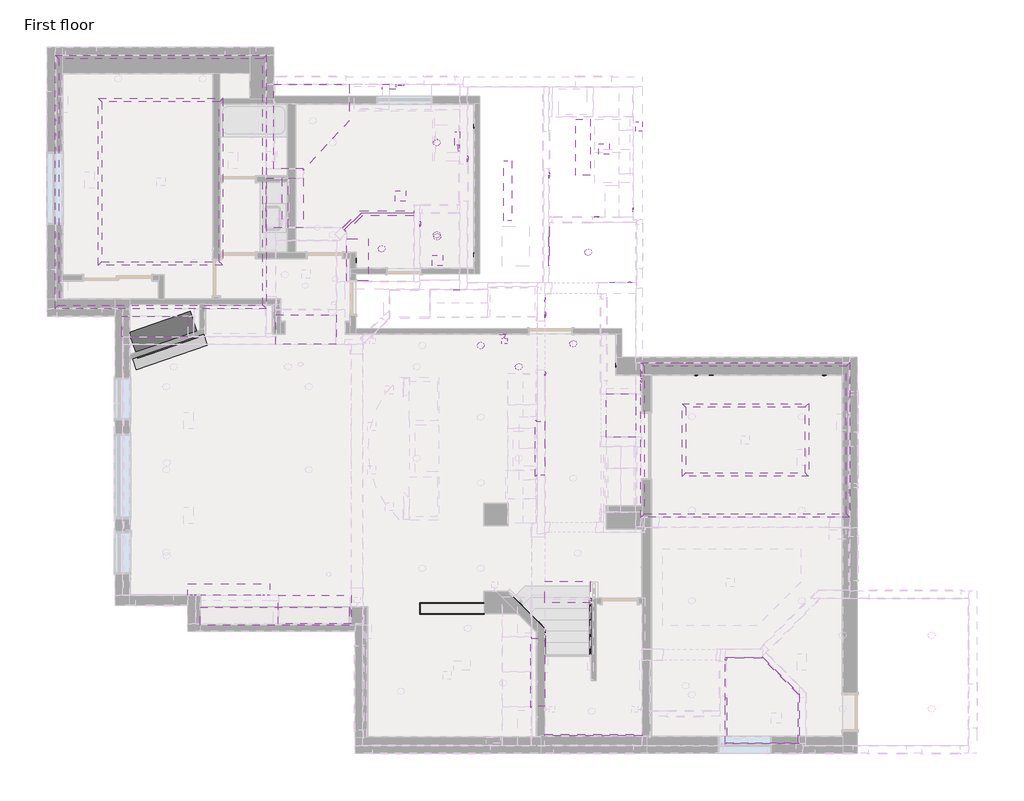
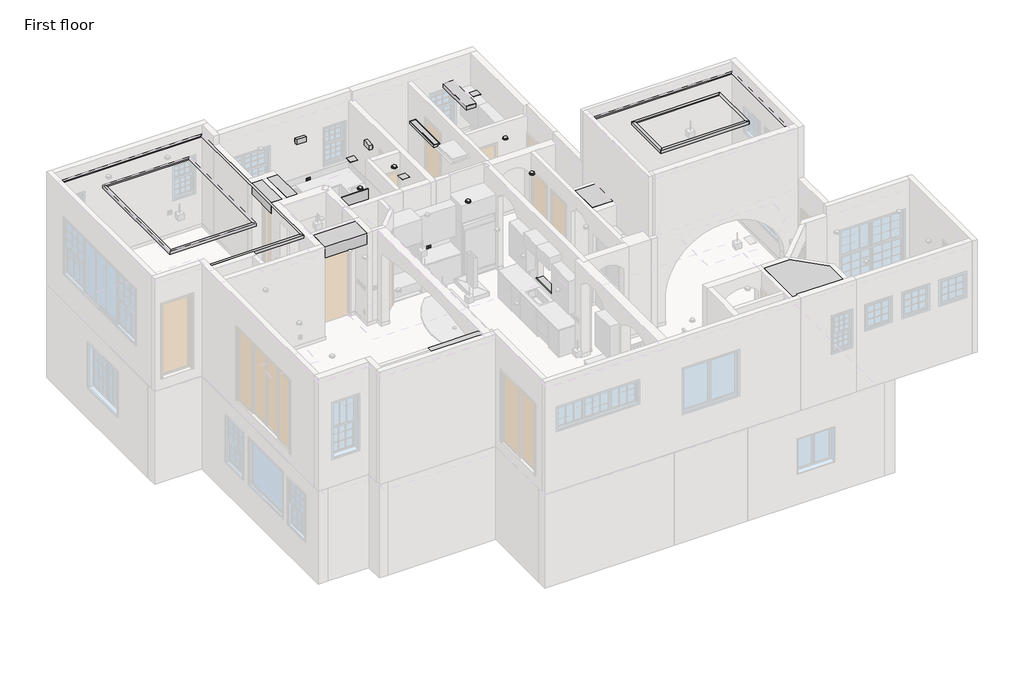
# One storey, part 14 of 14: 74 proxies, 13 light fixtures, 5 air terminals.
"""IFC4 building model written with IfcOpenShell, lengths in millimetres."""

from ifc_helpers import new_model, si_unit, frame, origin, place, context, project, spatial, polyline, outline, extrude, transform, mapped, element, save
from components import c_grill_surface_based_standard_2_2f876657, c_grill_surface_based_standard_2_48c5f946, c_grill_surface_based_standard_2_8d849078, c_ceiling_plinth_c_ceiling_plinth_07490a19, c_ceiling_plinth_c_ceiling_plinth_956910f2, c_ceiling_plinth_c_ceiling_plinth_1bd93db3, c_ceiling_plinth_c_ceiling_plinth_f940792f, c_ceiling_plinth_c_ceiling_plinth_f0e8bfd6, c_ceiling_plinth_c_ceiling_plinth_449aa241, c_ceiling_plinth_c_ceiling_plinth_816fd98c, c_ceiling_plinth_c_ceiling_plinth_ae76a3ac, c_ceiling_plinth_c_ceiling_plinth_c3456988, c_ceiling_plinth_c_ceiling_plinth_0aeba844, c_ceiling_plinth_c_ceiling_plinth_8b769437, c_wall_board_c_wall_board_c33469f1, c_wall_board_c_wall_board_74ff0e35, c_wall_board_c_wall_board_af5b2832, c_wall_board_c_wall_board_67e629dd, c_wall_board_c_wall_board_a4613c67, c_wall_board_c_wall_board_090922ad, generic_models_10_generic_models_10_af9f11de, generic_models_11_generic_models_11_a00f24be, generic_models_14_generic_models_14_d007ad1f, generic_models_15_generic_models_4_dc497b9f, generic_models_16_generic_models_16_c4cf1f47, generic_models_18_generic_models_18_dc80c390, generic_models_22_generic_models_22_3790d6d9, generic_models_24_generic_models_24_3cd4313f, generic_models_25_generic_models_23_0da5df83, generic_models_30_generic_models_30_32e6dbb7, generic_models_38_generic_models_38_c5c5c476, generic_models_4_generic_models_3_e1b9b177, generic_models_52_generic_models_52_cda593ee, generic_models_59_generic_models_59_640be4be, generic_models_60_generic_models_59_80c58292, generic_models_61_generic_models_61_ec9a401e, generic_models_66_generic_models_66_a00b6013, generic_models_67_generic_models_67_35788e7a, generic_models_68_generic_models_68_d109ae78, generic_models_7_generic_models_7_fadefc11, generic_models_8_generic_models_8_df820373, generic_models_9_generic_models_9_1c03b8d7, switch_1_switch_1_abfddd09, switch_15_switch_15_0b5d0301, switch_3_switch_3_7c683c41, switch_4_switch_4_5f3987fe, switch_6_switch_6_e364368d, light_fixture_d200bb49, c_ceiling_light_rectangular_recessed_light_12_0c98196d, c_spotlight_recessed_light_2_4ee42974, c_wall_lamp_horizontal_c_wall_lamp_horizontal_2ccf24a9, light_9_8d0eca55

model = new_model("IFC4")

# Units and contexts
model_context = context("Model", 3, world=origin())
ifc_project = project(units=[si_unit("LENGTHUNIT", "METRE", prefix="MILLI")], contexts=[model_context])

# Site, building, storey
site = spatial("IfcSite", under=ifc_project)
building = spatial("IfcBuilding", under=site)
storey = spatial("IfcBuildingStorey", under=building, Name="First floor", Elevation=0.0)

# Air terminals
placement = place(None, origin())
c_grill_surface_based_standard_2_shape = c_grill_surface_based_standard_2_2f876657(model_context)
element("IfcAirTerminal", 1, ObjectType="C_Grill_Surface Based : Standard 2", at=placement, inside=storey, context=model_context, shape_type="MappedRepresentation", body=[
    mapped(c_grill_surface_based_standard_2_shape, transform((4191.0, 10974.3815126, 6096.0), x_axis=(0.0, 1.0, 0.0), y_axis=(0.0, 0.0, 1.0), z_axis=(1.0, 0.0, 0.0))),
])
c_grill_surface_based_standard_2_2_shape = c_grill_surface_based_standard_2_48c5f946(model_context)
element("IfcAirTerminal", 2, ObjectType="C_Grill_Surface Based : Standard 2", at=placement, inside=storey, context=model_context, shape_type="MappedRepresentation", body=[
    mapped(c_grill_surface_based_standard_2_2_shape, transform((977.9, 12064.8947939, 6299.2), x_axis=(1.0, 0.0, 0.0), y_axis=(0.0, -1.0, 0.0), z_axis=(0.0, 0.0, -1.0))),
])
element("IfcAirTerminal", 3, ObjectType="C_Grill_Surface Based : Standard 2", at=placement, inside=storey, context=model_context, shape_type="MappedRepresentation", body=[
    mapped(c_grill_surface_based_standard_2_2_shape, transform((1778.0, 10667.8947939, 6299.2), x_axis=(1.0, 0.0, 0.0), y_axis=(0.0, -1.0, 0.0), z_axis=(0.0, 0.0, -1.0))),
])
element("IfcAirTerminal", 4, ObjectType="C_Grill_Surface Based : Standard 2", at=placement, inside=storey, context=model_context, shape_type="MappedRepresentation", body=[
    mapped(c_grill_surface_based_standard_2_2_shape, transform((5384.8, 13080.8947939, 6299.2), x_axis=(1.0, 0.0, 0.0), y_axis=(0.0, -1.0, 0.0), z_axis=(0.0, 0.0, -1.0))),
])
c_grill_surface_based_standard_2_3_shape = c_grill_surface_based_standard_2_8d849078(model_context)
element("IfcAirTerminal", 5, ObjectType="C_Grill_Surface Based : Standard 2", at=placement, inside=storey, context=model_context, shape_type="MappedRepresentation", body=[
    mapped(c_grill_surface_based_standard_2_3_shape, transform((2578.1, 13042.9, 254.0), x_axis=(0.0, -1.0, 0.0), y_axis=(0.0, 0.0, 1.0), z_axis=(-1.0, 0.0, 0.0))),
])

# Proxies
element("IfcBuildingElementProxy", 6, Name="Wall void 1  : Wall void 1 ", ObjectType="Wall void 1  : Wall void 1 ", at=placement, inside=storey, context=model_context, shape_type="SweptSolid", body=[
    extrude(outline(polyline([(13703.1947939, 4381.5), (13703.1947939, 4152.9), (13423.7947939, 4152.9), (13423.7947939, 4381.5), (13703.1947939, 4381.5)]), holes=[polyline([(13665.0947939, 4191.0), (13665.0947939, 4343.4), (13461.8947939, 4343.4), (13461.8947939, 4191.0), (13665.0947939, 4191.0)])]), frame((6007.1, 0.0, 0.0), z_axis=(1.0, 0.0, 0.0), x_axis=(0.0, 1.0, 0.0)), (0.0, 0.0, 1.0), 12.7),
    extrude(outline(polyline([(6070.6, 13461.8947939), (6070.6, 13665.0947939), (6210.3, 13665.0947939), (6210.3, 13461.8947939), (6070.6, 13461.8947939)])), frame((0.0, 0.0, 4191.0), z_axis=(0.0, 0.0, 1.0), x_axis=(1.0, 0.0, 0.0)), (0.0, 0.0, 1.0), 152.4),
])
c_ceiling_plinth_c_ceiling_plinth_shape = c_ceiling_plinth_c_ceiling_plinth_07490a19(model_context)
element("IfcBuildingElementProxy", 7, Name="C_Ceiling Plinth : C_Ceiling Plinth", ObjectType="C_Ceiling Plinth : C_Ceiling Plinth", at=placement, inside=storey, context=model_context, shape_type="MappedRepresentation", body=[
    mapped(c_ceiling_plinth_c_ceiling_plinth_shape, transform((2795.4409365, 3238.5176057, 1066.8), x_axis=(-1.0, 0.0, 0.0), y_axis=(0.0, -1.0, 0.0), z_axis=(0.0, 0.0, 1.0))),
])
c_ceiling_plinth_c_ceiling_plinth_2_shape = c_ceiling_plinth_c_ceiling_plinth_956910f2(model_context)
element("IfcBuildingElementProxy", 8, Name="C_Ceiling Plinth : C_Ceiling Plinth", ObjectType="C_Ceiling Plinth : C_Ceiling Plinth", at=placement, inside=storey, context=model_context, shape_type="MappedRepresentation", body=[
    mapped(c_ceiling_plinth_c_ceiling_plinth_2_shape, transform((1417.513341, 3035.3176057, 1066.8), x_axis=(1.0, 0.0, 0.0), y_axis=(0.0, 1.0, 0.0), z_axis=(0.0, 0.0, 1.0))),
])
c_ceiling_plinth_c_ceiling_plinth_3_shape = c_ceiling_plinth_c_ceiling_plinth_1bd93db3(model_context)
element("IfcBuildingElementProxy", 9, Name="C_Ceiling Plinth : C_Ceiling Plinth", ObjectType="C_Ceiling Plinth : C_Ceiling Plinth", at=placement, inside=storey, context=model_context, shape_type="MappedRepresentation", body=[
    mapped(c_ceiling_plinth_c_ceiling_plinth_3_shape, transform((1417.513341, 3035.3176057, 1066.8), x_axis=(0.0, 1.0, 0.0), y_axis=(-1.0, 0.0, 0.0), z_axis=(0.0, 0.0, 1.0))),
])
c_ceiling_plinth_c_ceiling_plinth_4_shape = c_ceiling_plinth_c_ceiling_plinth_f940792f(model_context)
element("IfcBuildingElementProxy", 10, Name="C_Ceiling Plinth : C_Ceiling Plinth", ObjectType="C_Ceiling Plinth : C_Ceiling Plinth", at=placement, inside=storey, context=model_context, shape_type="MappedRepresentation", body=[
    mapped(c_ceiling_plinth_c_ceiling_plinth_4_shape, transform((6184.8999991, 8458.2, 7975.6), x_axis=(1.0, 0.0, 0.0), y_axis=(0.0, 1.0, 0.0), z_axis=(0.0, 0.0, 1.0))),
])
element("IfcBuildingElementProxy", 11, Name="C_Ceiling Plinth : C_Ceiling Plinth", ObjectType="C_Ceiling Plinth : C_Ceiling Plinth", at=placement, inside=storey, context=model_context, shape_type="MappedRepresentation", body=[
    mapped(c_ceiling_plinth_c_ceiling_plinth_4_shape, transform((10706.1, 5105.4001027, 7975.6), x_axis=(-1.0, 0.0, 0.0), y_axis=(0.0, -1.0, 0.0), z_axis=(0.0, 0.0, 1.0))),
])
c_ceiling_plinth_c_ceiling_plinth_5_shape = c_ceiling_plinth_c_ceiling_plinth_f0e8bfd6(model_context)
element("IfcBuildingElementProxy", 12, Name="C_Ceiling Plinth : C_Ceiling Plinth", ObjectType="C_Ceiling Plinth : C_Ceiling Plinth", at=placement, inside=storey, context=model_context, shape_type="MappedRepresentation", body=[
    mapped(c_ceiling_plinth_c_ceiling_plinth_5_shape, transform((6184.8999991, 5105.4001027, 7975.6), x_axis=(0.0, 1.0, 0.0), y_axis=(-1.0, 0.0, 0.0), z_axis=(0.0, 0.0, 1.0))),
])
element("IfcBuildingElementProxy", 13, Name="C_Ceiling Plinth : C_Ceiling Plinth", ObjectType="C_Ceiling Plinth : C_Ceiling Plinth", at=placement, inside=storey, context=model_context, shape_type="MappedRepresentation", body=[
    mapped(c_ceiling_plinth_c_ceiling_plinth_5_shape, transform((10706.1, 8458.2, 7975.6), x_axis=(0.0, -1.0, 0.0), y_axis=(1.0, 0.0, 0.0), z_axis=(0.0, 0.0, 1.0))),
])
c_ceiling_plinth_c_ceiling_plinth_6_shape = c_ceiling_plinth_c_ceiling_plinth_449aa241(model_context)
element("IfcBuildingElementProxy", 14, Name="C_Ceiling Plinth : C_Ceiling Plinth", ObjectType="C_Ceiling Plinth : C_Ceiling Plinth", at=placement, inside=storey, context=model_context, shape_type="MappedRepresentation", body=[
    mapped(c_ceiling_plinth_c_ceiling_plinth_6_shape, transform((7073.9, 7569.2, 8128.0), x_axis=(1.0, 0.0, 0.0), y_axis=(0.0, 1.0, 0.0), z_axis=(0.0, 0.0, 1.0))),
])
element("IfcBuildingElementProxy", 15, Name="C_Ceiling Plinth : C_Ceiling Plinth", ObjectType="C_Ceiling Plinth : C_Ceiling Plinth", at=placement, inside=storey, context=model_context, shape_type="MappedRepresentation", body=[
    mapped(c_ceiling_plinth_c_ceiling_plinth_6_shape, transform((9817.1, 5994.4, 8128.0), x_axis=(-1.0, 0.0, 0.0), y_axis=(0.0, -1.0, 0.0), z_axis=(0.0, 0.0, 1.0))),
])
c_ceiling_plinth_c_ceiling_plinth_7_shape = c_ceiling_plinth_c_ceiling_plinth_816fd98c(model_context)
element("IfcBuildingElementProxy", 16, Name="C_Ceiling Plinth : C_Ceiling Plinth", ObjectType="C_Ceiling Plinth : C_Ceiling Plinth", at=placement, inside=storey, context=model_context, shape_type="MappedRepresentation", body=[
    mapped(c_ceiling_plinth_c_ceiling_plinth_7_shape, transform((7073.9, 5994.4, 8128.0), x_axis=(0.0, 1.0, 0.0), y_axis=(-1.0, 0.0, 0.0), z_axis=(0.0, 0.0, 1.0))),
])
element("IfcBuildingElementProxy", 17, Name="C_Ceiling Plinth : C_Ceiling Plinth", ObjectType="C_Ceiling Plinth : C_Ceiling Plinth", at=placement, inside=storey, context=model_context, shape_type="MappedRepresentation", body=[
    mapped(c_ceiling_plinth_c_ceiling_plinth_7_shape, transform((9817.1, 7569.2, 8128.0), x_axis=(0.0, -1.0, 0.0), y_axis=(1.0, 0.0, 0.0), z_axis=(0.0, 0.0, 1.0))),
])
c_ceiling_plinth_c_ceiling_plinth_8_shape = c_ceiling_plinth_c_ceiling_plinth_ae76a3ac(model_context)
element("IfcBuildingElementProxy", 18, Name="C_Ceiling Plinth : C_Ceiling Plinth", ObjectType="C_Ceiling Plinth : C_Ceiling Plinth", at=placement, inside=storey, context=model_context, shape_type="MappedRepresentation", body=[
    mapped(c_ceiling_plinth_c_ceiling_plinth_8_shape, transform((-1924.05, 9626.6, 6299.2), x_axis=(-1.0, 0.0, 0.0), y_axis=(0.0, -1.0, 0.0), z_axis=(0.0, 0.0, 1.0))),
])
element("IfcBuildingElementProxy", 19, Name="C_Ceiling Plinth : C_Ceiling Plinth", ObjectType="C_Ceiling Plinth : C_Ceiling Plinth", at=placement, inside=storey, context=model_context, shape_type="MappedRepresentation", body=[
    mapped(c_ceiling_plinth_c_ceiling_plinth_8_shape, transform((-6496.05, 15113.0, 6299.2), x_axis=(1.0, 0.0, 0.0), y_axis=(0.0, 1.0, 0.0), z_axis=(0.0, 0.0, 1.0))),
])
c_ceiling_plinth_c_ceiling_plinth_9_shape = c_ceiling_plinth_c_ceiling_plinth_c3456988(model_context)
element("IfcBuildingElementProxy", 20, Name="C_Ceiling Plinth : C_Ceiling Plinth", ObjectType="C_Ceiling Plinth : C_Ceiling Plinth", at=placement, inside=storey, context=model_context, shape_type="MappedRepresentation", body=[
    mapped(c_ceiling_plinth_c_ceiling_plinth_9_shape, transform((-6496.05, 9626.6, 6299.2), x_axis=(0.0, 1.0, 0.0), y_axis=(-1.0, 0.0, 0.0), z_axis=(0.0, 0.0, 1.0))),
])
element("IfcBuildingElementProxy", 21, Name="C_Ceiling Plinth : C_Ceiling Plinth", ObjectType="C_Ceiling Plinth : C_Ceiling Plinth", at=placement, inside=storey, context=model_context, shape_type="MappedRepresentation", body=[
    mapped(c_ceiling_plinth_c_ceiling_plinth_9_shape, transform((-1924.05, 15113.0, 6299.2), x_axis=(0.0, -1.0, 0.0), y_axis=(1.0, 0.0, 0.0), z_axis=(0.0, 0.0, 1.0))),
])
c_ceiling_plinth_c_ceiling_plinth_10_shape = c_ceiling_plinth_c_ceiling_plinth_0aeba844(model_context)
element("IfcBuildingElementProxy", 22, Name="C_Ceiling Plinth : C_Ceiling Plinth", ObjectType="C_Ceiling Plinth : C_Ceiling Plinth", at=placement, inside=storey, context=model_context, shape_type="MappedRepresentation", body=[
    mapped(c_ceiling_plinth_c_ceiling_plinth_10_shape, transform((-2863.85, 10566.4, 6451.6), x_axis=(-1.0, 0.0, 0.0), y_axis=(0.0, -1.0, 0.0), z_axis=(0.0, 0.0, 1.0))),
])
element("IfcBuildingElementProxy", 23, Name="C_Ceiling Plinth : C_Ceiling Plinth", ObjectType="C_Ceiling Plinth : C_Ceiling Plinth", at=placement, inside=storey, context=model_context, shape_type="MappedRepresentation", body=[
    mapped(c_ceiling_plinth_c_ceiling_plinth_10_shape, transform((-5556.25, 14173.2, 6451.6), x_axis=(1.0, 0.0, 0.0), y_axis=(0.0, 1.0, 0.0), z_axis=(0.0, 0.0, 1.0))),
])
c_ceiling_plinth_c_ceiling_plinth_11_shape = c_ceiling_plinth_c_ceiling_plinth_8b769437(model_context)
element("IfcBuildingElementProxy", 24, Name="C_Ceiling Plinth : C_Ceiling Plinth", ObjectType="C_Ceiling Plinth : C_Ceiling Plinth", at=placement, inside=storey, context=model_context, shape_type="MappedRepresentation", body=[
    mapped(c_ceiling_plinth_c_ceiling_plinth_11_shape, transform((-2863.85, 14173.2, 6451.6), x_axis=(0.0, -1.0, 0.0), y_axis=(1.0, 0.0, 0.0), z_axis=(0.0, 0.0, 1.0))),
])
element("IfcBuildingElementProxy", 25, Name="C_Ceiling Plinth : C_Ceiling Plinth", ObjectType="C_Ceiling Plinth : C_Ceiling Plinth", at=placement, inside=storey, context=model_context, shape_type="MappedRepresentation", body=[
    mapped(c_ceiling_plinth_c_ceiling_plinth_11_shape, transform((-5556.25, 10566.4, 6451.6), x_axis=(0.0, 1.0, 0.0), y_axis=(-1.0, 0.0, 0.0), z_axis=(0.0, 0.0, 1.0))),
])
c_wall_board_c_wall_board_shape = c_wall_board_c_wall_board_c33469f1(model_context)
element("IfcBuildingElementProxy", 26, Name="C_Wall Board : C_Wall Board", ObjectType="C_Wall Board : C_Wall Board", at=placement, inside=storey, context=model_context, shape_type="MappedRepresentation", body=[
    mapped(c_wall_board_c_wall_board_shape, transform((9613.9, 203.2, 3251.2), x_axis=(-1.0, 0.0, 0.0), y_axis=(0.0, -1.0, 0.0), z_axis=(0.0, 0.0, 1.0))),
])
c_wall_board_c_wall_board_2_shape = c_wall_board_c_wall_board_74ff0e35(model_context)
element("IfcBuildingElementProxy", 27, Name="C_Wall Board : C_Wall Board", ObjectType="C_Wall Board : C_Wall Board", at=placement, inside=storey, context=model_context, shape_type="MappedRepresentation", body=[
    mapped(c_wall_board_c_wall_board_2_shape, transform((8013.7, 203.2, 3251.2), x_axis=(0.0, 1.0, 0.0), y_axis=(-1.0, 0.0, 0.0), z_axis=(0.0, 0.0, 1.0))),
])
c_wall_board_c_wall_board_3_shape = c_wall_board_c_wall_board_af5b2832(model_context)
element("IfcBuildingElementProxy", 28, Name="C_Wall Board : C_Wall Board", ObjectType="C_Wall Board : C_Wall Board", at=placement, inside=storey, context=model_context, shape_type="MappedRepresentation", body=[
    mapped(c_wall_board_c_wall_board_3_shape, transform((9613.9, 1286.1553898, 3251.2), x_axis=(0.0, -1.0, 0.0), y_axis=(1.0, 0.0, 0.0), z_axis=(0.0, 0.0, 1.0))),
])
c_wall_board_c_wall_board_4_shape = c_wall_board_c_wall_board_67e629dd(model_context)
element("IfcBuildingElementProxy", 29, Name="C_Wall Board : C_Wall Board", ObjectType="C_Wall Board : C_Wall Board", at=placement, inside=storey, context=model_context, shape_type="MappedRepresentation", body=[
    mapped(c_wall_board_c_wall_board_4_shape, transform((8817.2553898, 2082.8, 3251.2), x_axis=(0.7071067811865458, -0.7071067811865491, 0.0), y_axis=(0.7071067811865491, 0.7071067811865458, 0.0), z_axis=(0.0, 0.0, 1.0))),
])
c_wall_board_c_wall_board_5_shape = c_wall_board_c_wall_board_a4613c67(model_context)
element("IfcBuildingElementProxy", 30, Name="C_Wall Board : C_Wall Board", ObjectType="C_Wall Board : C_Wall Board", at=placement, inside=storey, context=model_context, shape_type="MappedRepresentation", body=[
    mapped(c_wall_board_c_wall_board_5_shape, transform((8013.7, 2082.8, 3251.2), x_axis=(1.0, 0.0, 0.0), y_axis=(0.0, 1.0, 0.0), z_axis=(0.0, 0.0, 1.0))),
])
c_wall_board_c_wall_board_6_shape = c_wall_board_c_wall_board_090922ad(model_context)
element("IfcBuildingElementProxy", 31, Name="C_Wall Board : C_Wall Board", ObjectType="C_Wall Board : C_Wall Board", at=placement, inside=storey, context=model_context, shape_type="MappedRepresentation", body=[
    mapped(c_wall_board_c_wall_board_6_shape, transform((8013.7, 2019.3, 3251.2), x_axis=(0.0, 1.0, 0.0), y_axis=(-1.0, 0.0, 0.0), z_axis=(0.0, 0.0, 1.0))),
])
generic_models_10_generic_models_10_shape = generic_models_10_generic_models_10_af9f11de(model_context)
element("IfcBuildingElementProxy", 32, Name="Generic Models 10 : Generic Models 10", ObjectType="Generic Models 10 : Generic Models 10", at=placement, inside=storey, context=model_context, shape_type="MappedRepresentation", body=[
    mapped(generic_models_10_generic_models_10_shape, transform((0.0, 0.0, 0.0), x_axis=(1.0, 0.0, 0.0), y_axis=(0.0, 1.0, 0.0), z_axis=(0.0, 0.0, 1.0))),
])
generic_models_11_generic_models_11_shape = generic_models_11_generic_models_11_a00f24be(model_context)
element("IfcBuildingElementProxy", 33, Name="Generic Models 11 : Generic Models 11", ObjectType="Generic Models 11 : Generic Models 11", at=placement, inside=storey, context=model_context, shape_type="MappedRepresentation", body=[
    mapped(generic_models_11_generic_models_11_shape, transform((0.0, 0.0, 0.0), x_axis=(1.0, 0.0, 0.0), y_axis=(0.0, 1.0, 0.0), z_axis=(0.0, 0.0, 1.0))),
])
generic_models_14_generic_models_14_shape = generic_models_14_generic_models_14_d007ad1f(model_context)
element("IfcBuildingElementProxy", 34, Name="Generic Models 14 : Generic Models 14", ObjectType="Generic Models 14 : Generic Models 14", at=placement, inside=storey, context=model_context, shape_type="MappedRepresentation", body=[
    mapped(generic_models_14_generic_models_14_shape, transform((0.0, 0.0, 0.0), x_axis=(1.0, 0.0, 0.0), y_axis=(0.0, 1.0, 0.0), z_axis=(0.0, 0.0, 1.0))),
])
generic_models_15_generic_models_4_shape = generic_models_15_generic_models_4_dc497b9f(model_context)
element("IfcBuildingElementProxy", 35, Name="Generic Models 15 : Generic Models 4", ObjectType="Generic Models 15 : Generic Models 4", at=placement, inside=storey, context=model_context, shape_type="MappedRepresentation", body=[
    mapped(generic_models_15_generic_models_4_shape, transform((0.0, 0.0, 0.0), x_axis=(1.0, 0.0, 0.0), y_axis=(0.0, 1.0, 0.0), z_axis=(0.0, 0.0, 1.0))),
])
generic_models_16_generic_models_16_shape = generic_models_16_generic_models_16_c4cf1f47(model_context)
element("IfcBuildingElementProxy", 36, Name="Generic Models 16 : Generic Models 16", ObjectType="Generic Models 16 : Generic Models 16", at=placement, inside=storey, context=model_context, shape_type="MappedRepresentation", body=[
    mapped(generic_models_16_generic_models_16_shape, transform((0.0, 0.0, 0.0), x_axis=(1.0, 0.0, 0.0), y_axis=(0.0, 1.0, 0.0), z_axis=(0.0, 0.0, 1.0))),
])
generic_models_18_generic_models_18_shape = generic_models_18_generic_models_18_dc80c390(model_context)
element("IfcBuildingElementProxy", 37, Name="Generic Models 18 : Generic Models 18", ObjectType="Generic Models 18 : Generic Models 18", at=placement, inside=storey, context=model_context, shape_type="MappedRepresentation", body=[
    mapped(generic_models_18_generic_models_18_shape, transform((0.0, 0.0, 0.0), x_axis=(1.0, 0.0, 0.0), y_axis=(0.0, 1.0, 0.0), z_axis=(0.0, 0.0, 1.0))),
])
generic_models_22_generic_models_22_shape = generic_models_22_generic_models_22_3790d6d9(model_context)
element("IfcBuildingElementProxy", 38, Name="Generic Models 22 : Generic Models 22", ObjectType="Generic Models 22 : Generic Models 22", at=placement, inside=storey, context=model_context, shape_type="MappedRepresentation", body=[
    mapped(generic_models_22_generic_models_22_shape, transform((0.0, 0.0, 0.0), x_axis=(1.0, 0.0, 0.0), y_axis=(0.0, 1.0, 0.0), z_axis=(0.0, 0.0, 1.0))),
])
element("IfcBuildingElementProxy", 39, Name="Generic Models 23 : Generic Models 16", ObjectType="Generic Models 23 : Generic Models 16", at=placement, inside=storey, context=model_context, shape_type="SweptSolid", body=[
    extrude(outline(polyline([(8013.7, 2082.8), (8817.2553898, 2082.8), (9613.9, 1286.1553898), (9613.9, 203.2), (8013.7, 203.2), (8013.7, 2082.8)])), frame((0.0, 0.0, 5956.3), z_axis=(0.0, 0.0, 1.0), x_axis=(1.0, 0.0, 0.0)), (0.0, 0.0, 1.0), 342.9),
])
generic_models_24_generic_models_24_shape = generic_models_24_generic_models_24_3cd4313f(model_context)
element("IfcBuildingElementProxy", 40, Name="Generic Models 24 : Generic Models 24", ObjectType="Generic Models 24 : Generic Models 24", at=placement, inside=storey, context=model_context, shape_type="MappedRepresentation", body=[
    mapped(generic_models_24_generic_models_24_shape, transform((0.0, 0.0, 0.0), x_axis=(1.0, 0.0, 0.0), y_axis=(0.0, 1.0, 0.0), z_axis=(0.0, 0.0, 1.0))),
])
generic_models_25_generic_models_23_shape = generic_models_25_generic_models_23_0da5df83(model_context)
element("IfcBuildingElementProxy", 41, Name="Generic Models 25 : Generic Models 23", ObjectType="Generic Models 25 : Generic Models 23", at=placement, inside=storey, context=model_context, shape_type="MappedRepresentation", body=[
    mapped(generic_models_25_generic_models_23_shape, transform((0.0, 0.0, 0.0), x_axis=(1.0, 0.0, 0.0), y_axis=(0.0, 1.0, 0.0), z_axis=(0.0, 0.0, 1.0))),
])
generic_models_30_generic_models_30_shape = generic_models_30_generic_models_30_32e6dbb7(model_context)
element("IfcBuildingElementProxy", 42, Name="Generic Models 30 : Generic Models 30", ObjectType="Generic Models 30 : Generic Models 30", at=placement, inside=storey, context=model_context, shape_type="MappedRepresentation", body=[
    mapped(generic_models_30_generic_models_30_shape, transform((0.0, 0.0, 444.5), x_axis=(1.0, 0.0, 0.0), y_axis=(0.0, 1.0, 0.0), z_axis=(0.0, 0.0, 1.0))),
])
generic_models_38_generic_models_38_shape = generic_models_38_generic_models_38_c5c5c476(model_context)
element("IfcBuildingElementProxy", 43, Name="Generic Models 38 : Generic Models 38", ObjectType="Generic Models 38 : Generic Models 38", at=placement, inside=storey, context=model_context, shape_type="MappedRepresentation", body=[
    mapped(generic_models_38_generic_models_38_shape, transform((0.0, 0.0, 0.0), x_axis=(1.0, 0.0, 0.0), y_axis=(0.0, 1.0, 0.0), z_axis=(0.0, 0.0, 1.0))),
])
generic_models_4_generic_models_3_shape = generic_models_4_generic_models_3_e1b9b177(model_context)
element("IfcBuildingElementProxy", 44, Name="Generic Models 4 : Generic Models 3", ObjectType="Generic Models 4 : Generic Models 3", at=placement, inside=storey, context=model_context, shape_type="MappedRepresentation", body=[
    mapped(generic_models_4_generic_models_3_shape, transform((0.0, 0.0, 0.0), x_axis=(1.0, 0.0, 0.0), y_axis=(0.0, 1.0, 0.0), z_axis=(0.0, 0.0, 1.0))),
])
generic_models_52_generic_models_52_shape = generic_models_52_generic_models_52_cda593ee(model_context)
element("IfcBuildingElementProxy", 45, Name="Generic Models 52 : Generic Models 52", ObjectType="Generic Models 52 : Generic Models 52", at=placement, inside=storey, context=model_context, shape_type="MappedRepresentation", body=[
    mapped(generic_models_52_generic_models_52_shape, transform((0.0, 0.0, 0.0), x_axis=(1.0, 0.0, 0.0), y_axis=(0.0, 1.0, 0.0), z_axis=(0.0, 0.0, 1.0))),
])
generic_models_59_generic_models_59_shape = generic_models_59_generic_models_59_640be4be(model_context)
element("IfcBuildingElementProxy", 46, Name="Generic Models 59 : Generic Models 59", ObjectType="Generic Models 59 : Generic Models 59", at=placement, inside=storey, context=model_context, shape_type="MappedRepresentation", body=[
    mapped(generic_models_59_generic_models_59_shape, transform((0.0, 0.0, 0.0), x_axis=(1.0, 0.0, 0.0), y_axis=(0.0, 1.0, 0.0), z_axis=(0.0, 0.0, 1.0))),
])
generic_models_60_generic_models_59_shape = generic_models_60_generic_models_59_80c58292(model_context)
element("IfcBuildingElementProxy", 47, Name="Generic Models 60 : Generic Models 59", ObjectType="Generic Models 60 : Generic Models 59", at=placement, inside=storey, context=model_context, shape_type="MappedRepresentation", body=[
    mapped(generic_models_60_generic_models_59_shape, transform((0.0, 0.0, 0.0), x_axis=(1.0, 0.0, 0.0), y_axis=(0.0, 1.0, 0.0), z_axis=(0.0, 0.0, 1.0))),
])
generic_models_61_generic_models_61_shape = generic_models_61_generic_models_61_ec9a401e(model_context)
element("IfcBuildingElementProxy", 48, Name="Generic Models 61 : Generic Models 61", ObjectType="Generic Models 61 : Generic Models 61", at=placement, inside=storey, context=model_context, shape_type="MappedRepresentation", body=[
    mapped(generic_models_61_generic_models_61_shape, transform((0.0, 0.0, 0.0), x_axis=(1.0, 0.0, 0.0), y_axis=(0.0, 1.0, 0.0), z_axis=(0.0, 0.0, 1.0))),
])
generic_models_66_generic_models_66_shape = generic_models_66_generic_models_66_a00b6013(model_context)
element("IfcBuildingElementProxy", 49, Name="Generic Models 66 : Generic Models 66", ObjectType="Generic Models 66 : Generic Models 66", at=placement, inside=storey, context=model_context, shape_type="MappedRepresentation", body=[
    mapped(generic_models_66_generic_models_66_shape, transform((0.0, 0.0, 0.0), x_axis=(1.0, 0.0, 0.0), y_axis=(0.0, 1.0, 0.0), z_axis=(0.0, 0.0, 1.0))),
])
generic_models_67_generic_models_67_shape = generic_models_67_generic_models_67_35788e7a(model_context)
element("IfcBuildingElementProxy", 50, Name="Generic Models 67 : Generic Models 67", ObjectType="Generic Models 67 : Generic Models 67", at=placement, inside=storey, context=model_context, shape_type="MappedRepresentation", body=[
    mapped(generic_models_67_generic_models_67_shape, transform((0.0, 0.0, 0.0), x_axis=(1.0, 0.0, 0.0), y_axis=(0.0, 1.0, 0.0), z_axis=(0.0, 0.0, 1.0))),
])
generic_models_68_generic_models_68_shape = generic_models_68_generic_models_68_d109ae78(model_context)
element("IfcBuildingElementProxy", 51, Name="Generic Models 68 : Generic Models 68", ObjectType="Generic Models 68 : Generic Models 68", at=placement, inside=storey, context=model_context, shape_type="MappedRepresentation", body=[
    mapped(generic_models_68_generic_models_68_shape, transform((0.0, 0.0, 0.0), x_axis=(1.0, 0.0, 0.0), y_axis=(0.0, 1.0, 0.0), z_axis=(0.0, 0.0, 1.0))),
])
generic_models_7_generic_models_7_shape = generic_models_7_generic_models_7_fadefc11(model_context)
element("IfcBuildingElementProxy", 52, Name="Generic Models 7 : Generic Models 7", ObjectType="Generic Models 7 : Generic Models 7", at=placement, inside=storey, context=model_context, shape_type="MappedRepresentation", body=[
    mapped(generic_models_7_generic_models_7_shape, transform((0.0, 0.0, 0.0), x_axis=(1.0, 0.0, 0.0), y_axis=(0.0, 1.0, 0.0), z_axis=(0.0, 0.0, 1.0))),
])
generic_models_8_generic_models_8_shape = generic_models_8_generic_models_8_df820373(model_context)
element("IfcBuildingElementProxy", 53, Name="Generic Models 8 : Generic Models 8", ObjectType="Generic Models 8 : Generic Models 8", at=placement, inside=storey, context=model_context, shape_type="MappedRepresentation", body=[
    mapped(generic_models_8_generic_models_8_shape, transform((0.0, 0.0, 0.0), x_axis=(1.0, 0.0, 0.0), y_axis=(0.0, 1.0, 0.0), z_axis=(0.0, 0.0, 1.0))),
])
generic_models_9_generic_models_9_shape = generic_models_9_generic_models_9_1c03b8d7(model_context)
element("IfcBuildingElementProxy", 54, Name="Generic Models 9 : Generic Models 9", ObjectType="Generic Models 9 : Generic Models 9", at=placement, inside=storey, context=model_context, shape_type="MappedRepresentation", body=[
    mapped(generic_models_9_generic_models_9_shape, transform((0.0, 0.0, 0.0), x_axis=(1.0, 0.0, 0.0), y_axis=(0.0, 1.0, 0.0), z_axis=(0.0, 0.0, 1.0))),
])
switch_1_switch_1_shape = switch_1_switch_1_abfddd09(model_context)
element("IfcBuildingElementProxy", 55, Name="switch 1 : switch 1", ObjectType="switch 1 : switch 1", at=placement, inside=storey, context=model_context, shape_type="MappedRepresentation", body=[
    mapped(switch_1_switch_1_shape, transform((7054.8499991, 8458.2, 3556.0), x_axis=(1.0, 0.0, 0.0), y_axis=(0.0, 0.0, 1.0), z_axis=(0.0, -1.0, 0.0))),
])
element("IfcBuildingElementProxy", 56, Name="switch 1 : switch 1", ObjectType="switch 1 : switch 1", at=placement, inside=storey, context=model_context, shape_type="MappedRepresentation", body=[
    mapped(switch_1_switch_1_shape, transform((6184.8999991, 8210.55, 4330.7), x_axis=(0.0, 1.0, 0.0), y_axis=(0.0, 0.0, 1.0), z_axis=(1.0, 0.0, 0.0))),
])
element("IfcBuildingElementProxy", 57, Name="switch 1 : switch 1", ObjectType="switch 1 : switch 1", at=placement, inside=storey, context=model_context, shape_type="MappedRepresentation", body=[
    mapped(switch_1_switch_1_shape, transform((4102.1, 9816.9947939, 3556.0), x_axis=(0.0, 1.0, 0.0), y_axis=(0.0, 0.0, 1.0), z_axis=(1.0, 0.0, 0.0))),
])
element("IfcBuildingElementProxy", 58, Name="switch 1 : switch 1", ObjectType="switch 1 : switch 1", at=placement, inside=storey, context=model_context, shape_type="MappedRepresentation", body=[
    mapped(switch_1_switch_1_shape, transform((7702.55, 8191.5, 292.1), x_axis=(1.0, 0.0, 0.0), y_axis=(0.0, 0.0, 1.0), z_axis=(0.0, -1.0, 0.0))),
])
element("IfcBuildingElementProxy", 59, Name="switch 1 : switch 1", ObjectType="switch 1 : switch 1", at=placement, inside=storey, context=model_context, shape_type="MappedRepresentation", body=[
    mapped(switch_1_switch_1_shape, transform((12.7, 10668.0, 228.6), x_axis=(0.0, 1.0, 0.0), y_axis=(0.0, 0.0, 1.0), z_axis=(1.0, 0.0, 0.0))),
])
switch_15_switch_15_shape = switch_15_switch_15_0b5d0301(model_context)
element("IfcBuildingElementProxy", 60, Name="switch 15 : switch 15", ObjectType="switch 15 : switch 15", at=placement, inside=storey, context=model_context, shape_type="MappedRepresentation", body=[
    mapped(switch_15_switch_15_shape, transform((2184.4, 10033.0, 4178.3), x_axis=(1.0, 0.0, 0.0), y_axis=(0.0, 0.0, 1.0), z_axis=(0.0, -1.0, 0.0))),
])
element("IfcBuildingElementProxy", 61, Name="switch 15 : switch 15", ObjectType="switch 15 : switch 15", at=placement, inside=storey, context=model_context, shape_type="MappedRepresentation", body=[
    mapped(switch_15_switch_15_shape, transform((990.6, 14465.1947939, 4229.1), x_axis=(-1.0, 0.0, 0.0), y_axis=(0.0, 0.0, -1.0), z_axis=(0.0, -1.0, 0.0))),
])
element("IfcBuildingElementProxy", 62, Name="switch 15 : switch 15", ObjectType="switch 15 : switch 15", at=placement, inside=storey, context=model_context, shape_type="MappedRepresentation", body=[
    mapped(switch_15_switch_15_shape, transform((2247.9, 13093.5947939, 4229.1), x_axis=(0.0, 1.0, 0.0), y_axis=(0.0, 0.0, -1.0), z_axis=(-1.0, 0.0, 0.0))),
])
switch_3_switch_3_shape = switch_3_switch_3_7c683c41(model_context)
element("IfcBuildingElementProxy", 63, Name="switch 3 : switch 3", ObjectType="switch 3 : switch 3", at=placement, inside=storey, context=model_context, shape_type="MappedRepresentation", body=[
    mapped(switch_3_switch_3_shape, transform((6184.8999991, 8070.85, 4330.7), x_axis=(0.0, 1.0, 0.0), y_axis=(0.0, 0.0, 1.0), z_axis=(1.0, 0.0, 0.0))),
])
element("IfcBuildingElementProxy", 64, Name="switch 3 : switch 3", ObjectType="switch 3 : switch 3", at=placement, inside=storey, context=model_context, shape_type="MappedRepresentation", body=[
    mapped(switch_3_switch_3_shape, transform((4102.1, 8216.7947939, 4318.0), x_axis=(0.0, 1.0, 0.0), y_axis=(0.0, 0.0, 1.0), z_axis=(1.0, 0.0, 0.0))),
])
element("IfcBuildingElementProxy", 65, Name="switch 3 : switch 3", ObjectType="switch 3 : switch 3", at=placement, inside=storey, context=model_context, shape_type="MappedRepresentation", body=[
    mapped(switch_3_switch_3_shape, transform((5949.95, 10185.2947939, 4356.1), x_axis=(-1.0, 0.0, 0.0), y_axis=(0.0, 0.0, 1.0), z_axis=(0.0, 1.0, 0.0))),
])
element("IfcBuildingElementProxy", 66, Name="switch 3 : switch 3", ObjectType="switch 3 : switch 3", at=placement, inside=storey, context=model_context, shape_type="MappedRepresentation", body=[
    mapped(switch_3_switch_3_shape, transform((5226.05, 11607.6947939, 4381.5), x_axis=(-1.0, 0.0, 0.0), y_axis=(0.0, 0.0, 1.0), z_axis=(0.0, 1.0, 0.0))),
])
switch_4_switch_4_shape = switch_4_switch_4_5f3987fe(model_context)
element("IfcBuildingElementProxy", 67, Name="switch 4 : switch 4", ObjectType="switch 4 : switch 4", at=placement, inside=storey, context=model_context, shape_type="MappedRepresentation", body=[
    mapped(switch_4_switch_4_shape, transform((4102.1, 9474.0947939, 3556.0), x_axis=(0.0, 1.0, 0.0), y_axis=(0.0, 0.0, 1.0), z_axis=(1.0, 0.0, 0.0))),
])
element("IfcBuildingElementProxy", 68, Name="switch 4 : switch 4", ObjectType="switch 4 : switch 4", at=placement, inside=storey, context=model_context, shape_type="MappedRepresentation", body=[
    mapped(switch_4_switch_4_shape, transform((5568.95, 10185.2947939, 3543.3006729), x_axis=(-1.0, 0.0, 0.0), y_axis=(0.0, 0.0, 1.0), z_axis=(0.0, 1.0, 0.0))),
])
element("IfcBuildingElementProxy", 69, Name="switch 4 : switch 4", ObjectType="switch 4 : switch 4", at=placement, inside=storey, context=model_context, shape_type="MappedRepresentation", body=[
    mapped(switch_4_switch_4_shape, transform((6019.8, 11766.4447939, 4356.1006729), x_axis=(0.0, -1.0, 0.0), y_axis=(0.0, 0.0, 1.0), z_axis=(-1.0, 0.0, 0.0))),
])
element("IfcBuildingElementProxy", 70, Name="switch 4 : switch 4", ObjectType="switch 4 : switch 4", at=placement, inside=storey, context=model_context, shape_type="MappedRepresentation", body=[
    mapped(switch_4_switch_4_shape, transform((7372.35, 8191.5, 292.1006729), x_axis=(1.0, 0.0, 0.0), y_axis=(0.0, 0.0, 1.0), z_axis=(0.0, -1.0, 0.0))),
])
element("IfcBuildingElementProxy", 71, Name="switch 4 : switch 4", ObjectType="switch 4 : switch 4", at=placement, inside=storey, context=model_context, shape_type="MappedRepresentation", body=[
    mapped(switch_4_switch_4_shape, transform((10147.3, 8191.5, 292.1006729), x_axis=(1.0, 0.0, 0.0), y_axis=(0.0, 0.0, 1.0), z_axis=(0.0, -1.0, 0.0))),
])
element("IfcBuildingElementProxy", 72, Name="switch 4 : switch 4", ObjectType="switch 4 : switch 4", at=placement, inside=storey, context=model_context, shape_type="MappedRepresentation", body=[
    mapped(switch_4_switch_4_shape, transform((5651.5, 8401.05, 292.1006729), x_axis=(0.0, -1.0, 0.0), y_axis=(0.0, 0.0, 1.0), z_axis=(-1.0, 0.0, 0.0))),
])
element("IfcBuildingElementProxy", 73, Name="switch 4 : switch 4", ObjectType="switch 4 : switch 4", at=placement, inside=storey, context=model_context, shape_type="MappedRepresentation", body=[
    mapped(switch_4_switch_4_shape, transform((3162.3, 9080.5, 292.1006729), x_axis=(1.0, 0.0, 0.0), y_axis=(0.0, 0.0, 1.0), z_axis=(0.0, -1.0, 0.0))),
])
element("IfcBuildingElementProxy", 74, Name="switch 4 : switch 4", ObjectType="switch 4 : switch 4", at=placement, inside=storey, context=model_context, shape_type="MappedRepresentation", body=[
    mapped(switch_4_switch_4_shape, transform((2578.1, 10795.0, 292.1), x_axis=(0.0, -1.0, 0.0), y_axis=(0.0, 0.0, 1.0), z_axis=(-1.0, 0.0, 0.0))),
])
element("IfcBuildingElementProxy", 75, Name="switch 4 : switch 4", ObjectType="switch 4 : switch 4", at=placement, inside=storey, context=model_context, shape_type="MappedRepresentation", body=[
    mapped(switch_4_switch_4_shape, transform((2578.1, 13576.3, 292.1), x_axis=(0.0, -1.0, 0.0), y_axis=(0.0, 0.0, 1.0), z_axis=(-1.0, 0.0, 0.0))),
])
switch_6_switch_6_shape = switch_6_switch_6_e364368d(model_context)
element("IfcBuildingElementProxy", 76, Name="switch 6 : switch 6", ObjectType="switch 6 : switch 6", at=placement, inside=storey, context=model_context, shape_type="MappedRepresentation", body=[
    mapped(switch_6_switch_6_shape, transform((4102.1, 9493.1447939, 4318.0), x_axis=(0.0, 1.0, 0.0), y_axis=(0.0, 0.0, 1.0), z_axis=(1.0, 0.0, 0.0))),
])
element("IfcBuildingElementProxy", 77, Name="switch 6 : switch 6", ObjectType="switch 6 : switch 6", at=placement, inside=storey, context=model_context, shape_type="MappedRepresentation", body=[
    mapped(switch_6_switch_6_shape, transform((4191.0, 12509.3947939, 4381.5), x_axis=(0.0, 1.0, 0.0), y_axis=(0.0, 0.0, 1.0), z_axis=(1.0, 0.0, 0.0))),
])
element("IfcBuildingElementProxy", 78, Name="switch 6 : switch 6", ObjectType="switch 6 : switch 6", at=placement, inside=storey, context=model_context, shape_type="MappedRepresentation", body=[
    mapped(switch_6_switch_6_shape, transform((2425.7, 12871.3447939, 4254.5), x_axis=(0.0, 1.0, 0.0), y_axis=(0.0, 0.0, 1.0), z_axis=(1.0, 0.0, 0.0))),
])
element("IfcBuildingElementProxy", 79, Name="switch 6 : switch 6", ObjectType="switch 6 : switch 6", at=placement, inside=storey, context=model_context, shape_type="MappedRepresentation", body=[
    mapped(switch_6_switch_6_shape, transform((1397.0, 11455.2947939, 4305.3), x_axis=(0.0, 1.0, 0.0), y_axis=(0.0, 0.0, 1.0), z_axis=(1.0, 0.0, 0.0))),
])

# Light fixtures
light_fixture_shape = light_fixture_d200bb49(model_context)
element("IfcLightFixture", 80, ObjectType="C_Sconce Downwards : 33700 ICARIA White ceiling fan / Wood Blade", at=placement, inside=storey, context=model_context, shape_type="MappedRepresentation", body=[
    mapped(light_fixture_shape, transform((3232.1317664, 9080.5, 1727.2), x_axis=(1.0, 0.0, 0.0), y_axis=(0.0, 0.0, 1.0), z_axis=(0.0, -1.0, 0.0))),
])
c_ceiling_light_rectangular_recessed_light_12_shape = c_ceiling_light_rectangular_recessed_light_12_0c98196d(model_context)
element("IfcLightFixture", 81, ObjectType="C_Ceiling Light Rectangular Recessed : Light 12", at=placement, inside=storey, context=model_context, shape_type="MappedRepresentation", body=[
    mapped(c_ceiling_light_rectangular_recessed_light_12_shape, transform((4871.2098492, 13136.9062656, 3860.8), x_axis=(0.0, 1.0, 0.0), y_axis=(-1.0, 0.0, 0.0), z_axis=(0.0, 0.0, 1.0))),
])
c_spotlight_recessed_light_2_shape = c_spotlight_recessed_light_2_4ee42974(model_context)
element("IfcLightFixture", 82, ObjectType="C_Spotlight Recessed : Light 2", at=placement, inside=storey, context=model_context, shape_type="MappedRepresentation", body=[
    mapped(c_spotlight_recessed_light_2_shape, transform((4724.4020444, 8864.4831594, 6451.6), x_axis=(-0.9999999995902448, 2.862709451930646e-05, 0.0), y_axis=(2.862709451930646e-05, 0.9999999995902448, 0.0), z_axis=(0.0, 0.0, -1.0))),
])
element("IfcLightFixture", 83, ObjectType="C_Spotlight Recessed : Light 2", at=placement, inside=storey, context=model_context, shape_type="MappedRepresentation", body=[
    mapped(c_spotlight_recessed_light_2_shape, transform((5041.9, 10845.6947939, 6299.2), x_axis=(1.0, 0.0, 0.0), y_axis=(0.0, -1.0, 0.0), z_axis=(0.0, 0.0, -1.0))),
])
element("IfcLightFixture", 84, ObjectType="C_Spotlight Recessed : Light 2", at=placement, inside=storey, context=model_context, shape_type="MappedRepresentation", body=[
    mapped(c_spotlight_recessed_light_2_shape, transform((1778.0, 11176.0, 6299.2), x_axis=(1.0, 0.0, 0.0), y_axis=(0.0, -1.0, 0.0), z_axis=(0.0, 0.0, -1.0))),
])
element("IfcLightFixture", 85, ObjectType="C_Spotlight Recessed : Light 2", at=placement, inside=storey, context=model_context, shape_type="MappedRepresentation", body=[
    mapped(c_spotlight_recessed_light_2_shape, transform((571.5, 10922.0, 6165.85), x_axis=(1.0, 0.0, 0.0), y_axis=(0.0, -1.0, 0.0), z_axis=(0.0, 0.0, -1.0))),
])
element("IfcLightFixture", 86, ObjectType="C_Spotlight Recessed : Light 2", at=placement, inside=storey, context=model_context, shape_type="MappedRepresentation", body=[
    mapped(c_spotlight_recessed_light_2_shape, transform((2717.6972395, 8826.5, 6261.1), x_axis=(0.0, -1.0, 0.0), y_axis=(-1.0, 0.0, 0.0), z_axis=(0.0, 0.0, -1.0))),
])
element("IfcLightFixture", 87, ObjectType="C_Spotlight Recessed : Light 2", at=placement, inside=storey, context=model_context, shape_type="MappedRepresentation", body=[
    mapped(c_spotlight_recessed_light_2_shape, transform((3543.3, 8369.3, 2565.4), x_axis=(0.0, -1.0, 0.0), y_axis=(-1.0, 0.0, 0.0), z_axis=(0.0, 0.0, -1.0))),
])
element("IfcLightFixture", 88, ObjectType="C_Spotlight Recessed : Light 2", at=placement, inside=storey, context=model_context, shape_type="MappedRepresentation", body=[
    mapped(c_spotlight_recessed_light_2_shape, transform((1765.3, 11226.8, 2565.4), x_axis=(0.0, -1.0, 0.0), y_axis=(-1.0, 0.0, 0.0), z_axis=(0.0, 0.0, -1.0))),
])
element("IfcLightFixture", 89, ObjectType="C_Spotlight Recessed : Light 2", at=placement, inside=storey, context=model_context, shape_type="MappedRepresentation", body=[
    mapped(c_spotlight_recessed_light_2_shape, transform((1765.3, 13220.7, 2565.4), x_axis=(0.0, -1.0, 0.0), y_axis=(-1.0, 0.0, 0.0), z_axis=(0.0, 0.0, -1.0))),
])
c_wall_lamp_horizontal_c_wall_lamp_horizontal_shape = c_wall_lamp_horizontal_c_wall_lamp_horizontal_2ccf24a9(model_context)
element("IfcLightFixture", 90, ObjectType="C_Wall Lamp Horizontal : C_Wall Lamp Horizontal", at=placement, inside=storey, context=model_context, shape_type="MappedRepresentation", body=[
    mapped(c_wall_lamp_horizontal_c_wall_lamp_horizontal_shape, transform((700.2443373, 14560.4447939, 3627.7512039), x_axis=(-1.0, 0.0, 0.0), y_axis=(0.0, -1.0, 0.0), z_axis=(0.0, 0.0, 1.0))),
])
element("IfcLightFixture", 91, ObjectType="C_Wall Lamp Horizontal : C_Wall Lamp Horizontal", at=placement, inside=storey, context=model_context, shape_type="MappedRepresentation", body=[
    mapped(c_wall_lamp_horizontal_c_wall_lamp_horizontal_shape, transform((2343.15, 13345.8504565, 3627.7512039), x_axis=(0.0, 1.0, 0.0), y_axis=(-1.0, 0.0, 0.0), z_axis=(0.0, 0.0, 1.0))),
])
light_9_shape = light_9_8d0eca55(model_context)
element("IfcLightFixture", 92, ObjectType="C_Ceiling Light Rectangular Flushed : Light 9", at=placement, inside=storey, context=model_context, shape_type="MappedRepresentation", body=[
    mapped(light_9_shape, transform((3302.0, 12179.1947939, 3860.8), x_axis=(0.0, 1.0, 0.0), y_axis=(-1.0, 0.0, 0.0), z_axis=(0.0, 0.0, 1.0))),
])

save(model, "model.ifc")
